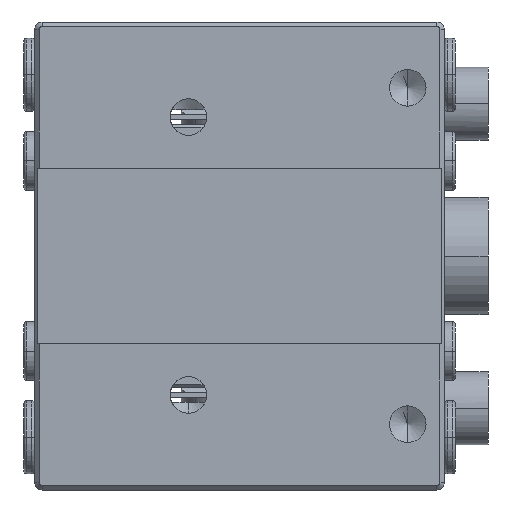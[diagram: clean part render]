
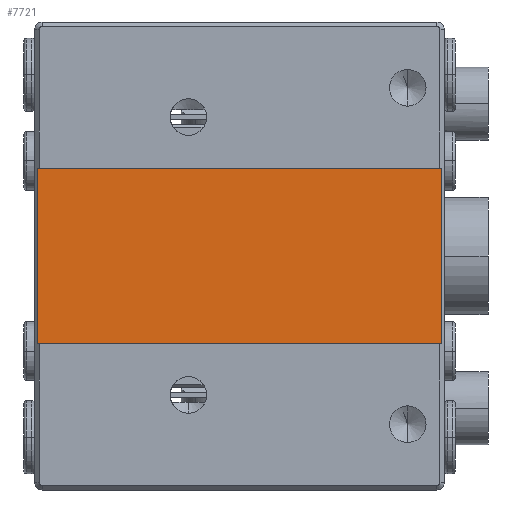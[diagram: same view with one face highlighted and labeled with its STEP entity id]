
A CAD part, front view. The second image highlights one B-rep face of the part: STEP entity #7721.
In plain terms, the highlighted planar face has unit normal (0, -1, 0).
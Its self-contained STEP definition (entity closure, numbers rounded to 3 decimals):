
#78 = LINE ( 'NONE', #14380, #4168 ) ;
#673 = LINE ( 'NONE', #2344, #15931 ) ;
#1094 = VECTOR ( 'NONE', #21892, 1000. ) ;
#1836 = ORIENTED_EDGE ( 'NONE', *, *, #21820, .T. ) ;
#2344 = CARTESIAN_POINT ( 'NONE',  ( 13.8, 0.1, 16. ) ) ;
#3233 = CARTESIAN_POINT ( 'NONE',  ( -13.8, 0.1, -6. ) ) ;
#3960 = LINE ( 'NONE', #21575, #21960 ) ;
#4168 = VECTOR ( 'NONE', #12644, 1000. ) ;
#5102 = EDGE_LOOP ( 'NONE', ( #1836, #8280, #10968, #22195 ) ) ;
#6754 = AXIS2_PLACEMENT_3D ( 'NONE', #18028, #7538, #19746 ) ;
#7460 = PLANE ( 'NONE',  #6754 ) ;
#7538 = DIRECTION ( 'NONE',  ( 0., 1., 0. ) ) ;
#7721 = ADVANCED_FACE ( 'NONE', ( #15988 ), #7460, .F. ) ;
#7825 = EDGE_CURVE ( 'NONE', #10541, #16688, #3960, .T. ) ;
#8066 = VERTEX_POINT ( 'NONE', #20412 ) ;
#8280 = ORIENTED_EDGE ( 'NONE', *, *, #18370, .T. ) ;
#9721 = CARTESIAN_POINT ( 'NONE',  ( -13.8, 0.1, 16. ) ) ;
#10541 = VERTEX_POINT ( 'NONE', #3233 ) ;
#10953 = EDGE_CURVE ( 'NONE', #8066, #10541, #14479, .T. ) ;
#10968 = ORIENTED_EDGE ( 'NONE', *, *, #10953, .T. ) ;
#12644 = DIRECTION ( 'NONE',  ( -1., 0., 0. ) ) ;
#13008 = CARTESIAN_POINT ( 'NONE',  ( 13.8, 0.1, 6. ) ) ;
#14380 = CARTESIAN_POINT ( 'NONE',  ( -20.869, 0.1, 6. ) ) ;
#14479 = LINE ( 'NONE', #9721, #1094 ) ;
#14491 = CARTESIAN_POINT ( 'NONE',  ( 13.8, 0.1, -6. ) ) ;
#15931 = VECTOR ( 'NONE', #16316, 1000. ) ;
#15988 = FACE_OUTER_BOUND ( 'NONE', #5102, .T. ) ;
#16316 = DIRECTION ( 'NONE',  ( 0., 0., 1. ) ) ;
#16390 = DIRECTION ( 'NONE',  ( 1., 0., 0. ) ) ;
#16688 = VERTEX_POINT ( 'NONE', #14491 ) ;
#18028 = CARTESIAN_POINT ( 'NONE',  ( 0., 0.1, 0. ) ) ;
#18370 = EDGE_CURVE ( 'NONE', #21370, #8066, #78, .T. ) ;
#19746 = DIRECTION ( 'NONE',  ( 0., 0., 1. ) ) ;
#20412 = CARTESIAN_POINT ( 'NONE',  ( -13.8, 0.1, 6. ) ) ;
#21370 = VERTEX_POINT ( 'NONE', #13008 ) ;
#21575 = CARTESIAN_POINT ( 'NONE',  ( -20.869, 0.1, -6. ) ) ;
#21820 = EDGE_CURVE ( 'NONE', #16688, #21370, #673, .T. ) ;
#21892 = DIRECTION ( 'NONE',  ( 0., 0., -1. ) ) ;
#21960 = VECTOR ( 'NONE', #16390, 1000. ) ;
#22195 = ORIENTED_EDGE ( 'NONE', *, *, #7825, .T. ) ;
